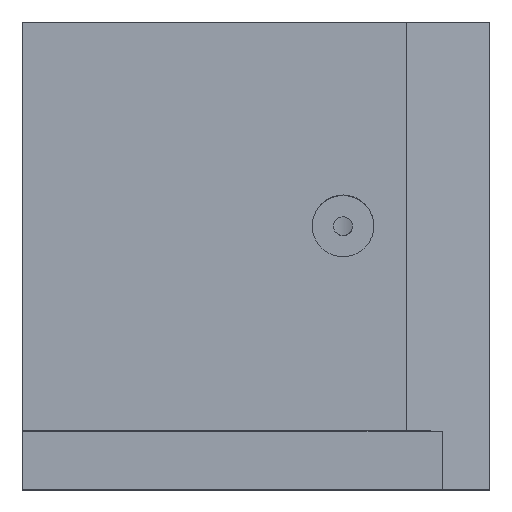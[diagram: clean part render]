
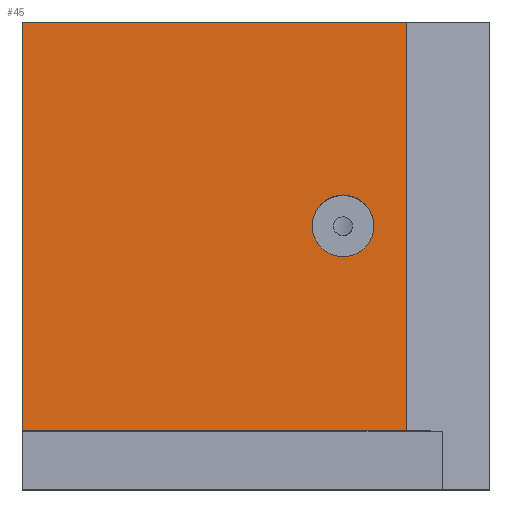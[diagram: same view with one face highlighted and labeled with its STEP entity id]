
A CAD part, top view. The second image highlights one B-rep face of the part: STEP entity #45.
In plain terms, the highlighted planar face has unit normal (0, 0, 1).
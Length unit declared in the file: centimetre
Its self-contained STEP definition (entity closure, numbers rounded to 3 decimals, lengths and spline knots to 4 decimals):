
#5 = ORIENTED_EDGE ( 'NONE', *, *, #1021, .T. ) ;
#27 = DIRECTION ( 'NONE',  ( 1., 0., 0. ) ) ;
#45 = ADVANCED_FACE ( 'NONE', ( #1068, #289 ), #312, .T. ) ;
#46 = VERTEX_POINT ( 'NONE', #913 ) ;
#80 = CARTESIAN_POINT ( 'NONE',  ( 822.0143, 1000., 1000. ) ) ;
#81 = EDGE_CURVE ( 'NONE', #1865, #615, #333, .T. ) ;
#91 = LINE ( 'NONE', #80, #174 ) ;
#110 = EDGE_CURVE ( 'NONE', #1798, #967, #1596, .T. ) ;
#139 = DIRECTION ( 'NONE',  ( 0., -1., 0. ) ) ;
#174 = VECTOR ( 'NONE', #1760, 100. ) ;
#180 = DIRECTION ( 'NONE',  ( 0., 0., 1. ) ) ;
#247 = ORIENTED_EDGE ( 'NONE', *, *, #81, .T. ) ;
#286 = LINE ( 'NONE', #1503, #490 ) ;
#289 = FACE_BOUND ( 'NONE', #1506, .T. ) ;
#312 = PLANE ( 'NONE',  #1908 ) ;
#333 = LINE ( 'NONE', #1832, #1053 ) ;
#441 = CARTESIAN_POINT ( 'NONE',  ( 0., 124.638, 1000. ) ) ;
#483 = CARTESIAN_POINT ( 'NONE',  ( 686.3775, 563.6755, 1000. ) ) ;
#490 = VECTOR ( 'NONE', #139, 100. ) ;
#600 = CARTESIAN_POINT ( 'NONE',  ( 0., 0., 1000. ) ) ;
#615 = VERTEX_POINT ( 'NONE', #1496 ) ;
#647 = ORIENTED_EDGE ( 'NONE', *, *, #1403, .T. ) ;
#702 = EDGE_CURVE ( 'NONE', #615, #46, #91, .T. ) ;
#721 = ORIENTED_EDGE ( 'NONE', *, *, #702, .T. ) ;
#729 = EDGE_LOOP ( 'NONE', ( #247, #721, #647, #5 ) ) ;
#757 = DIRECTION ( 'NONE',  ( 1., 0., 0. ) ) ;
#834 = CARTESIAN_POINT ( 'NONE',  ( 0., 1000., 1000. ) ) ;
#891 = CARTESIAN_POINT ( 'NONE',  ( 752.4187, 563.6755, 1000. ) ) ;
#913 = CARTESIAN_POINT ( 'NONE',  ( 822.0143, 1000., 1000. ) ) ;
#943 = CARTESIAN_POINT ( 'NONE',  ( 686.3775, 563.6755, 1000. ) ) ;
#967 = VERTEX_POINT ( 'NONE', #891 ) ;
#1021 = EDGE_CURVE ( 'NONE', #1202, #1865, #286, .T. ) ;
#1053 = VECTOR ( 'NONE', #1388, 100. ) ;
#1068 = FACE_OUTER_BOUND ( 'NONE', #729, .T. ) ;
#1102 = DIRECTION ( 'NONE',  ( 1., 0., 0. ) ) ;
#1127 = VECTOR ( 'NONE', #1453, 100. ) ;
#1152 = LINE ( 'NONE', #834, #1127 ) ;
#1159 = CIRCLE ( 'NONE', #1220, 66.0412 ) ;
#1202 = VERTEX_POINT ( 'NONE', #1723 ) ;
#1220 = AXIS2_PLACEMENT_3D ( 'NONE', #943, #180, #1102 ) ;
#1324 = CARTESIAN_POINT ( 'NONE',  ( 620.3363, 563.6755, 1000. ) ) ;
#1356 = ORIENTED_EDGE ( 'NONE', *, *, #1929, .F. ) ;
#1388 = DIRECTION ( 'NONE',  ( 1., 0., 0. ) ) ;
#1398 = DIRECTION ( 'NONE',  ( 0., 0., 1. ) ) ;
#1403 = EDGE_CURVE ( 'NONE', #46, #1202, #1152, .T. ) ;
#1453 = DIRECTION ( 'NONE',  ( -1., 0., 0. ) ) ;
#1496 = CARTESIAN_POINT ( 'NONE',  ( 822.0143, 124.638, 1000. ) ) ;
#1503 = CARTESIAN_POINT ( 'NONE',  ( 0., 1000., 1000. ) ) ;
#1506 = EDGE_LOOP ( 'NONE', ( #1356, #1741 ) ) ;
#1531 = DIRECTION ( 'NONE',  ( 0., 0., 1. ) ) ;
#1596 = CIRCLE ( 'NONE', #1753, 66.0412 ) ;
#1723 = CARTESIAN_POINT ( 'NONE',  ( 0., 1000., 1000. ) ) ;
#1741 = ORIENTED_EDGE ( 'NONE', *, *, #110, .F. ) ;
#1753 = AXIS2_PLACEMENT_3D ( 'NONE', #483, #1398, #27 ) ;
#1760 = DIRECTION ( 'NONE',  ( 0., 1., 0. ) ) ;
#1798 = VERTEX_POINT ( 'NONE', #1324 ) ;
#1832 = CARTESIAN_POINT ( 'NONE',  ( 0., 124.638, 1000. ) ) ;
#1865 = VERTEX_POINT ( 'NONE', #441 ) ;
#1908 = AXIS2_PLACEMENT_3D ( 'NONE', #600, #1531, #757 ) ;
#1929 = EDGE_CURVE ( 'NONE', #967, #1798, #1159, .T. ) ;
